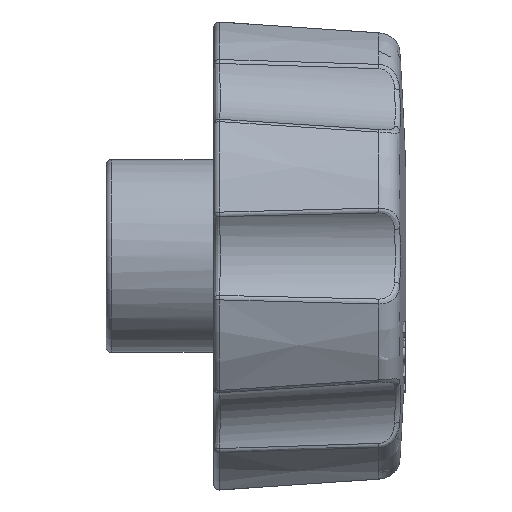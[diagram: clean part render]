
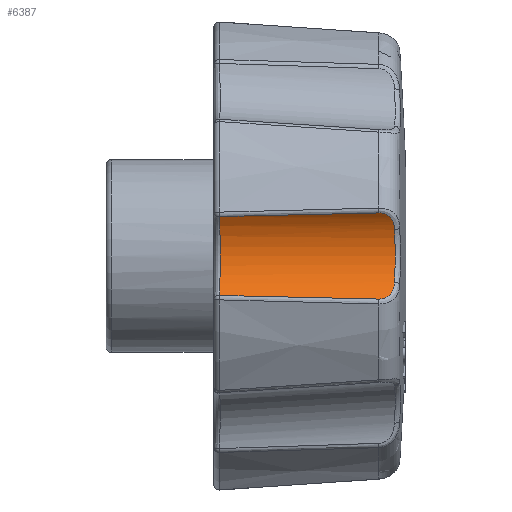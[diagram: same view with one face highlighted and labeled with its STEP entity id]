
A CAD part, left-side view. The second image highlights one B-rep face of the part: STEP entity #6387.
In plain terms, the highlighted cylindrical face has radius 5.824 mm (diameter 11.649 mm), a partial arc.
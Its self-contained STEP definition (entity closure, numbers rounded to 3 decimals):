
#187 = VERTEX_POINT ( 'NONE', #16893 ) ;
#558 = ORIENTED_EDGE ( 'NONE', *, *, #10389, .T. ) ;
#765 = CARTESIAN_POINT ( 'NONE',  ( -18.916, 16.453, 1.335 ) ) ;
#1103 = CARTESIAN_POINT ( 'NONE',  ( -19.549, 2.491, -3.794 ) ) ;
#1295 = CARTESIAN_POINT ( 'NONE',  ( -18.583, 1.089, 2.512 ) ) ;
#1732 = ORIENTED_EDGE ( 'NONE', *, *, #7085, .T. ) ;
#2196 = CARTESIAN_POINT ( 'NONE',  ( -19.549, 2.491, 3.794 ) ) ;
#2363 = VERTEX_POINT ( 'NONE', #2196 ) ;
#3216 = DIRECTION ( 'NONE',  ( -0.087, 0.996, 0. ) ) ;
#3359 = CARTESIAN_POINT ( 'NONE',  ( -18.583, 1.089, -2.512 ) ) ;
#3555 = CARTESIAN_POINT ( 'NONE',  ( -19.549, 2.491, 3.794 ) ) ;
#3674 = EDGE_CURVE ( 'NONE', #22090, #2363, #12774, .T. ) ;
#3766 = CARTESIAN_POINT ( 'NONE',  ( -18.216, 1.05, 1.573 ) ) ;
#5193 = CARTESIAN_POINT ( 'NONE',  ( -19.549, 2.491, -3.794 ) ) ;
#5480 = CARTESIAN_POINT ( 'NONE',  ( -19.005, 1.299, -3.218 ) ) ;
#5694 = CARTESIAN_POINT ( 'NONE',  ( -19.477, 2.073, 3.752 ) ) ;
#5899 = CARTESIAN_POINT ( 'NONE',  ( -18.021, 1.03, 0.4 ) ) ;
#6387 = ADVANCED_FACE ( 'NONE', ( #18204 ), #26873, .F. ) ;
#6804 = CARTESIAN_POINT ( 'NONE',  ( -19.549, 2.491, -3.794 ) ) ;
#7085 = EDGE_CURVE ( 'NONE', #2363, #187, #7488, .T. ) ;
#7346 = CARTESIAN_POINT ( 'NONE',  ( -20.517, 16.465, -3.477 ) ) ;
#7488 = B_SPLINE_CURVE_WITH_KNOTS ( 'NONE', 3,
 ( #28155, #8654, #17342, #26022 ),
 .UNSPECIFIED., .F., .F.,
 ( 4, 4 ),
 ( 0., 0.014 ),
 .UNSPECIFIED. ) ;
#7650 = CARTESIAN_POINT ( 'NONE',  ( -19.321, 1.701, -3.602 ) ) ;
#7702 = CARTESIAN_POINT ( 'NONE',  ( -18.497, 1.08, -2.316 ) ) ;
#7845 = CARTESIAN_POINT ( 'NONE',  ( -19.225, 1.538, 3.499 ) ) ;
#8062 = CARTESIAN_POINT ( 'NONE',  ( -18.051, 1.033, -0.788 ) ) ;
#8272 = VERTEX_POINT ( 'NONE', #15792 ) ;
#8654 = CARTESIAN_POINT ( 'NONE',  ( -19.872, 7.149, 3.696 ) ) ;
#9060 = B_SPLINE_CURVE_WITH_KNOTS ( 'NONE', 3,
 ( #1103, #9804, #18471, #27153, #7650, #16340, #25007, #5480, #14193, #22896, #3359, #12078 ),
 .UNSPECIFIED., .F., .F.,
 ( 4, 2, 2, 2, 2, 4 ),
 ( 0., 0.001, 0.001, 0.001, 0.002, 0.003 ),
 .UNSPECIFIED. ) ;
#9450 = CARTESIAN_POINT ( 'NONE',  ( -18.916, 16.453, -1.335 ) ) ;
#9804 = CARTESIAN_POINT ( 'NONE',  ( -19.534, 2.275, -3.798 ) ) ;
#9992 = CARTESIAN_POINT ( 'NONE',  ( -18.68, 1.113, 2.7 ) ) ;
#10202 = CARTESIAN_POINT ( 'NONE',  ( -18.497, 1.08, -2.316 ) ) ;
#10389 = EDGE_CURVE ( 'NONE', #18554, #22090, #14888, .T. ) ;
#11779 = VERTEX_POINT ( 'NONE', #6804 ) ;
#11930 = DIRECTION ( 'NONE',  ( -0.996, -0.087, 0. ) ) ;
#12078 = CARTESIAN_POINT ( 'NONE',  ( -18.497, 1.08, -2.316 ) ) ;
#12495 = CARTESIAN_POINT ( 'NONE',  ( -18.336, 1.063, 1.95 ) ) ;
#12774 = B_SPLINE_CURVE_WITH_KNOTS ( 'NONE', 3,
 ( #20798, #1295, #9992, #18662, #27335, #7845, #16542, #25209, #5694, #14399, #23090, #3555 ),
 .UNSPECIFIED., .F., .F.,
 ( 4, 2, 2, 2, 2, 4 ),
 ( 0., 0.001, 0.001, 0.002, 0.002, 0.003 ),
 .UNSPECIFIED. ) ;
#13587 =( BOUNDED_CURVE ( )  B_SPLINE_CURVE ( 3, ( #20280, #765, #9450, #18147 ),
 .UNSPECIFIED., .F., .F. ) 
 B_SPLINE_CURVE_WITH_KNOTS ( ( 4, 4 ),
 ( 2.502, 3.781 ),
 .UNSPECIFIED. ) 
 CURVE ( )  GEOMETRIC_REPRESENTATION_ITEM ( )  RATIONAL_B_SPLINE_CURVE ( ( 1., 0.868, 0.868, 1. ) ) 
 REPRESENTATION_ITEM ( '' )  );
#14193 = CARTESIAN_POINT ( 'NONE',  ( -18.889, 1.217, -3.051 ) ) ;
#14399 = CARTESIAN_POINT ( 'NONE',  ( -19.525, 2.278, 3.788 ) ) ;
#14609 = CARTESIAN_POINT ( 'NONE',  ( -18.063, 1.034, 0.797 ) ) ;
#14864 = EDGE_CURVE ( 'NONE', #11779, #18554, #9060, .T. ) ;
#14888 = B_SPLINE_CURVE_WITH_KNOTS ( 'NONE', 3,
 ( #10202, #18885, #27554, #8062, #16744, #25419, #5899, #14609, #23296, #3766, #12495, #21162 ),
 .UNSPECIFIED., .F., .F.,
 ( 4, 2, 2, 2, 2, 4 ),
 ( 0., 0.001, 0.002, 0.003, 0.004, 0.005 ),
 .UNSPECIFIED. ) ;
#15792 = CARTESIAN_POINT ( 'NONE',  ( -20.517, 16.465, -3.477 ) ) ;
#16054 = CARTESIAN_POINT ( 'NONE',  ( -20.195, 11.807, -3.591 ) ) ;
#16340 = CARTESIAN_POINT ( 'NONE',  ( -19.223, 1.547, -3.492 ) ) ;
#16542 = CARTESIAN_POINT ( 'NONE',  ( -19.329, 1.697, 3.613 ) ) ;
#16744 = CARTESIAN_POINT ( 'NONE',  ( -18.01, 1.029, -0.395 ) ) ;
#16893 = CARTESIAN_POINT ( 'NONE',  ( -20.517, 16.465, 3.477 ) ) ;
#17342 = CARTESIAN_POINT ( 'NONE',  ( -20.195, 11.807, 3.591 ) ) ;
#18147 = CARTESIAN_POINT ( 'NONE',  ( -20.517, 16.465, -3.477 ) ) ;
#18204 = FACE_OUTER_BOUND ( 'NONE', #24891, .T. ) ;
#18471 = CARTESIAN_POINT ( 'NONE',  ( -19.483, 2.065, -3.762 ) ) ;
#18554 = VERTEX_POINT ( 'NONE', #7702 ) ;
#18662 = CARTESIAN_POINT ( 'NONE',  ( -18.892, 1.219, 3.055 ) ) ;
#18885 = CARTESIAN_POINT ( 'NONE',  ( -18.336, 1.063, -1.95 ) ) ;
#19782 = ORIENTED_EDGE ( 'NONE', *, *, #14864, .T. ) ;
#20280 = CARTESIAN_POINT ( 'NONE',  ( -20.517, 16.465, 3.477 ) ) ;
#20587 = AXIS2_PLACEMENT_3D ( 'NONE', #22750, #3216, #11930 ) ;
#20600 = ORIENTED_EDGE ( 'NONE', *, *, #3674, .T. ) ;
#20798 = CARTESIAN_POINT ( 'NONE',  ( -18.497, 1.08, 2.316 ) ) ;
#20930 = EDGE_CURVE ( 'NONE', #8272, #11779, #21531, .T. ) ;
#21079 = ORIENTED_EDGE ( 'NONE', *, *, #26237, .T. ) ;
#21162 = CARTESIAN_POINT ( 'NONE',  ( -18.497, 1.08, 2.316 ) ) ;
#21531 = B_SPLINE_CURVE_WITH_KNOTS ( 'NONE', 3,
 ( #7346, #16054, #24742, #5193 ),
 .UNSPECIFIED., .F., .F.,
 ( 4, 4 ),
 ( 0., 0.014 ),
 .UNSPECIFIED. ) ;
#22090 = VERTEX_POINT ( 'NONE', #26893 ) ;
#22750 = CARTESIAN_POINT ( 'NONE',  ( -23.427, -3.89, 0. ) ) ;
#22896 = CARTESIAN_POINT ( 'NONE',  ( -18.679, 1.113, -2.699 ) ) ;
#23090 = CARTESIAN_POINT ( 'NONE',  ( -19.541, 2.383, 3.796 ) ) ;
#23296 = CARTESIAN_POINT ( 'NONE',  ( -18.093, 1.037, 0.993 ) ) ;
#24742 = CARTESIAN_POINT ( 'NONE',  ( -19.872, 7.149, -3.696 ) ) ;
#24891 = EDGE_LOOP ( 'NONE', ( #1732, #21079, #25046, #19782, #558, #20600 ) ) ;
#25007 = CARTESIAN_POINT ( 'NONE',  ( -19.169, 1.478, -3.428 ) ) ;
#25046 = ORIENTED_EDGE ( 'NONE', *, *, #20930, .T. ) ;
#25209 = CARTESIAN_POINT ( 'NONE',  ( -19.444, 1.973, 3.724 ) ) ;
#25419 = CARTESIAN_POINT ( 'NONE',  ( -18.011, 1.029, 0.2 ) ) ;
#26022 = CARTESIAN_POINT ( 'NONE',  ( -20.517, 16.465, 3.477 ) ) ;
#26237 = EDGE_CURVE ( 'NONE', #187, #8272, #13587, .T. ) ;
#26873 = CYLINDRICAL_SURFACE ( 'NONE', #20587, 5.824 ) ;
#26893 = CARTESIAN_POINT ( 'NONE',  ( -18.497, 1.08, 2.316 ) ) ;
#27153 = CARTESIAN_POINT ( 'NONE',  ( -19.366, 1.786, -3.649 ) ) ;
#27335 = CARTESIAN_POINT ( 'NONE',  ( -19.005, 1.3, 3.219 ) ) ;
#27554 = CARTESIAN_POINT ( 'NONE',  ( -18.214, 1.05, -1.566 ) ) ;
#28155 = CARTESIAN_POINT ( 'NONE',  ( -19.549, 2.491, 3.794 ) ) ;
